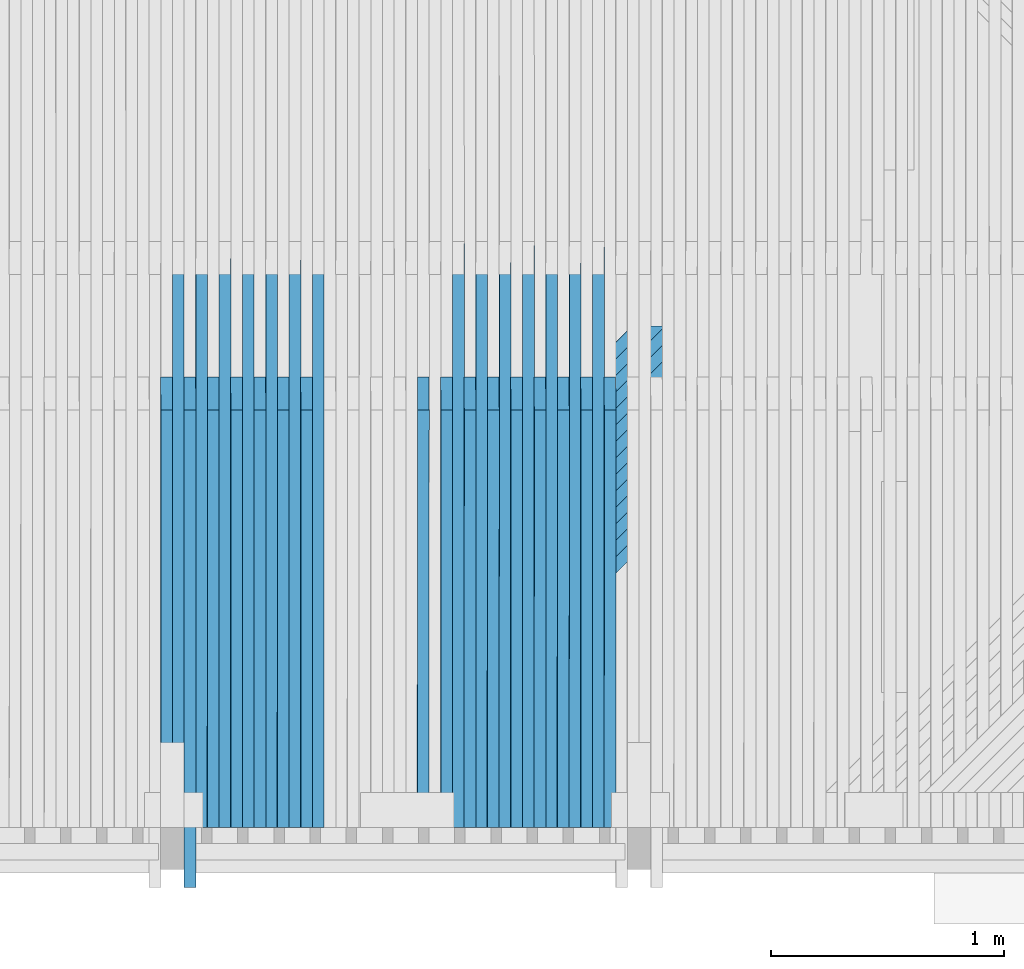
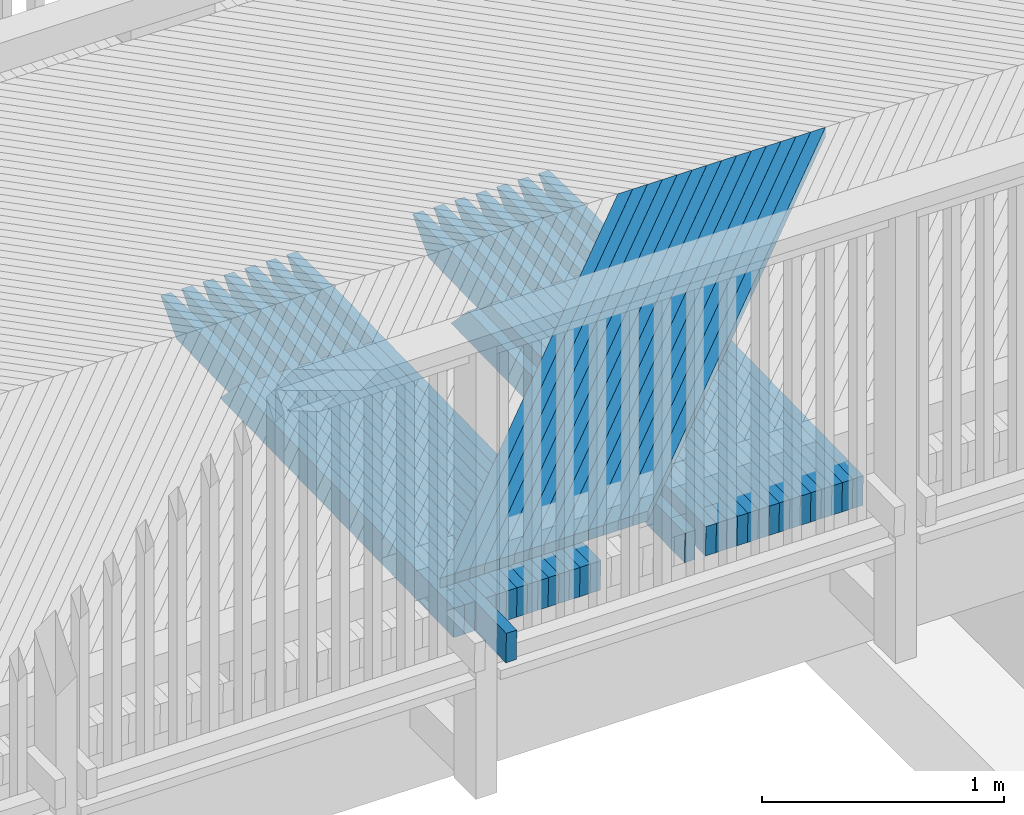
# One storey, part 38 of 52: 44 beams.
"""IFC2X3 building model written with IfcOpenShell, lengths in millimetres."""

from ifc_helpers import new_model, si_unit, frame, origin_with_axes, place, context, subcontext, project, spatial, faceted_brep, material, type_object, element, save


model = new_model("IFC2X3")

# Units and contexts
model_context = context("Model", 3, precision=1e-05, world=origin_with_axes())
body_context = subcontext(model_context, "Body", "Model", "MODEL_VIEW")
ifc_project = project(units=[si_unit("LENGTHUNIT", "METRE", prefix="MILLI"), si_unit("AREAUNIT", "SQUARE_METRE"), si_unit("VOLUMEUNIT", "CUBIC_METRE"), si_unit("MASSUNIT", "GRAM", prefix="KILO"), si_unit("TIMEUNIT", "SECOND"), si_unit("PLANEANGLEUNIT", "RADIAN"), si_unit("SOLIDANGLEUNIT", "STERADIAN"), si_unit("THERMODYNAMICTEMPERATUREUNIT", "DEGREE_CELSIUS"), si_unit("LUMINOUSINTENSITYUNIT", "LUMEN")], contexts=[model_context])

# Site, building, storey
site_placement = place(None, origin_with_axes())
site = spatial("IfcSite", under=ifc_project, at=site_placement, Name="Undefined", CompositionType="ELEMENT")
building_placement = place(site_placement, origin_with_axes())
building = spatial("IfcBuilding", under=site, at=building_placement, Name="Undefined", CompositionType="ELEMENT")
storey_placement = place(building_placement, origin_with_axes())
storey = spatial("IfcBuildingStorey", under=building, at=storey_placement, Name="Undefined", CompositionType="ELEMENT", Elevation=0.0)

# Beams
ifc_material = material(Name="TIMBER/Timber_Undefined")
beam_type_1 = type_object("IfcBeamType", Name="50*50", PredefinedType="NOTDEFINED")
for number, where, z_axis, x_axis, name in (
    (1, (14925.1802800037, 2364.50010032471, 3196.29569063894), (0.706919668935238, -0.706981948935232, -0.0210025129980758), (-0.70722726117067, -0.706948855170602, -0.00727442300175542), "BEAM"),
    (2, (14854.4606769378, 2364.50010032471, 3197.1049734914), (0.706922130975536, -0.706981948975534, -0.0209194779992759), (-0.707226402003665, -0.706948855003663, -0.00735749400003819), "BEAM"),
    (3, (14783.740979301, 2364.50010032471, 3197.90594956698), (0.706924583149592, -0.706981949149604, -0.020836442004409), (-0.70722553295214, -0.706948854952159, -0.00744056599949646), "BEAM"),
    (4, (14713.0211880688, 2364.50010032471, 3198.69861885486), (0.706927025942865, -0.706981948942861, -0.0207534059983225), (-0.707224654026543, -0.706948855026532, -0.00752363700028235), "BEAM"),
    (5, (14642.301304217, 2364.50010032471, 3199.4829813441), (0.706929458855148, -0.706981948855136, -0.0206703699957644), (-0.70722376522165, -0.706948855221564, -0.00760670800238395), "BEAM"),
    (6, (14571.5813287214, 2364.50010032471, 3200.25903702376), (0.706931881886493, -0.706981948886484, -0.0205873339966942), (-0.707222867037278, -0.706948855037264, -0.00768977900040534), "BEAM"),
    (7, (14500.8612625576, 2364.50010032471, 3201.02678588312), (0.706934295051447, -0.706981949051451, -0.0205042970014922), (-0.707221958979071, -0.70694885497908, -0.00777284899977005), "BEAM"),
    (8, (14430.1411067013, 2364.50010032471, 3201.78622791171), (0.706936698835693, -0.706981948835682, -0.0204212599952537), (-0.707221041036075, -0.706948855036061, -0.00785592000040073), "BEAM"),
    (9, (14359.4208621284, 2364.50010032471, 3202.53736309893), (0.706939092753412, -0.706981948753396, -0.0203382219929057), (-0.707220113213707, -0.706948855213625, -0.00793899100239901), "BEAM"),
    (10, (14288.7005298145, 2364.50010032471, 3203.28019143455), (0.706941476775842, -0.706981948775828, -0.0202551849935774), (-0.707219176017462, -0.706948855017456, -0.00802206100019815), "BEAM"),
    (11, (14217.9801107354, 2364.50010032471, 3204.01471290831), (0.706943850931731, -0.706981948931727, -0.0201721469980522), (-0.707218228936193, -0.706948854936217, -0.00810513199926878), "BEAM"),
    (12, (14147.2596058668, 2364.50010032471, 3204.74092750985), (0.706946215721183, -0.706981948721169, -0.0200891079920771), (-0.707217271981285, -0.706948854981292, -0.00818820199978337), "BEAM"),
    (13, (14076.5390161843, 2364.50010032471, 3205.45883522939), (0.706948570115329, -0.706981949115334, -0.0200060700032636), (-0.707216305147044, -0.706948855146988, -0.00827127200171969), "BEAM"),
    (14, (14005.8183426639, 2364.50010032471, 3206.16843605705), (0.706950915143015, -0.706981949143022, -0.0199230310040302), (-0.707215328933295, -0.70694885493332, -0.00835434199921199), "BEAM"),
):
    element("IfcBeam", number, at=place(storey_placement, frame(where, z_axis=z_axis, x_axis=x_axis)), inside=storey, type_object=beam_type_1, material=ifc_material, Name=name, ObjectType="50*50", context=body_context, shape_type="Brep", body=[
        faceted_brep([(24.894245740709, 25.0, -25.0), (-25.0086637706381, 24.9999999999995, 24.9999999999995), (2804.3406783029, 25.0000000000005, 25.0000000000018), (2854.34301907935, 25.0, -24.9999999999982), (-26.4222658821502, -25.0, 24.9999999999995), (2802.92643296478, -25.0, 25.0000000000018), (23.4806436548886, -25.0, -25.0), (2852.92877373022, -25.0, -24.9999999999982)], [[[0, 1, 2, 3]], [[1, 4, 5, 2]], [[4, 6, 7, 5]], [[6, 0, 3, 7]], [[5, 7, 3, 2]], [[6, 4, 1, 0]]]),
    ])
beam_type_2 = type_object("IfcBeamType", Name="150*50", PredefinedType="NOTDEFINED")
for number, where, z_axis, x_axis, name in (
    (15, (13875.0597412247, 216.50460761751, 3064.47376901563), (0.00967943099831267, -0.0199960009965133, 0.999753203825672), (0.000193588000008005, 0.999800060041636, 0.0199950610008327), "BEAM"),
    (16, (13775.0443914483, 216.50460761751, 3065.44163255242), (0.00951331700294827, -0.0199960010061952, 0.999754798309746), (0.000190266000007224, 0.999800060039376, 0.0199950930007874), "BEAM"),
):
    element("IfcBeam", number, at=place(storey_placement, frame(where, z_axis=z_axis, x_axis=x_axis)), inside=storey, type_object=beam_type_2, material=ifc_material, Name=name, ObjectType="150*50", context=body_context, shape_type="Brep", body=[
        faceted_brep([(-1.67788130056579e-07, -24.9999999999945, -74.9999999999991), (1.67786311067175e-07, -24.9999999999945, 75.0000000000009), (1.67786311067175e-07, 25.0000000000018, 75.0), (-1.67787220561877e-07, 25.0000000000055, -75.0), (1789.96936433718, -25.0000000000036, 74.9999999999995), (1789.96936408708, 24.9999999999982, 75.0000000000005), (1928.42646328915, 24.9999999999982, -74.9999999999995), (1928.42646353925, -25.0, -75.0)], [[[0, 1, 2, 3]], [[2, 1, 4, 5]], [[3, 2, 5, 6]], [[0, 3, 6, 7]], [[1, 0, 7, 4]], [[6, 5, 4, 7]]]),
    ])
beam_1_placement = place(storey_placement, frame((13825.062080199, 216.504607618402, 3064.95737203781), z_axis=(0.00967943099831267, -0.0199960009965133, 0.999753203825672), x_axis=(0.000193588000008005, 0.999800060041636, 0.0199950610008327)))
element("IfcBeam", 17, at=beam_1_placement, inside=storey, type_object=beam_type_2, material=ifc_material, Name="BEAM", ObjectType="150*50", context=body_context, shape_type="Brep", body=[
    faceted_brep([(-1.67788130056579e-07, -24.9999999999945, -74.9999999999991), (1.67786311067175e-07, -24.9999999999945, 75.0000000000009), (1.67786311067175e-07, 25.0000000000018, 75.0), (-1.67787220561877e-07, 25.0000000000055, -75.0), (2375.00494422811, 25.0000000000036, -74.9999999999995), (2375.0049444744, -24.9999999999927, -74.9999999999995), (2510.5924871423, -24.9999999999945, 60.5875430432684), (2150.42514405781, -24.9999999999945, 75.0000000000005), (2150.42515052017, 25.0000000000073, 75.0), (2510.59248715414, 25.0000000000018, 60.5875433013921)], [[[0, 1, 2, 3]], [[0, 3, 4, 5]], [[1, 0, 5, 6, 7]], [[2, 1, 7, 8]], [[4, 3, 2, 8, 9]], [[5, 4, 9, 6]], [[6, 9, 8, 7]]]),
])
beam_2_placement = place(storey_placement, frame((13675.0288822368, 216.50460761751, 3066.39287799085), z_axis=(0.00934720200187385, -0.0199960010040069, 0.999756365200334), x_axis=(0.000186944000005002, 0.999800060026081, 0.0199951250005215)))
element("IfcBeam", 18, at=beam_2_placement, inside=storey, type_object=beam_type_2, material=ifc_material, Name="BEAM", ObjectType="150*50", context=body_context, shape_type="Brep", body=[
    faceted_brep([(-1.67788130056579e-07, -24.9999999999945, -74.9999999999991), (1.67786311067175e-07, -24.9999999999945, 75.0000000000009), (1.67786311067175e-07, 25.0000000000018, 75.0), (-1.67787220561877e-07, 25.0000000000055, -75.0), (1789.96936433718, -25.0000000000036, 74.9999999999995), (1789.96936408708, 24.9999999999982, 75.0000000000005), (1928.42646328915, 24.9999999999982, -74.9999999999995), (1928.42646353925, -25.0, -75.0)], [[[0, 1, 2, 3]], [[2, 1, 4, 5]], [[3, 2, 5, 6]], [[0, 3, 6, 7]], [[1, 0, 7, 4]], [[6, 5, 4, 7]]]),
])
beam_3_placement = place(storey_placement, frame((13725.0466507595, 216.504607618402, 3065.91692818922), z_axis=(0.00951331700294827, -0.0199960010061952, 0.999754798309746), x_axis=(0.000190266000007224, 0.999800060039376, 0.0199950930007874)))
element("IfcBeam", 19, at=beam_3_placement, inside=storey, type_object=beam_type_2, material=ifc_material, Name="BEAM", ObjectType="150*50", context=body_context, shape_type="Brep", body=[
    faceted_brep([(-1.67788130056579e-07, -24.9999999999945, -74.9999999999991), (1.67786311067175e-07, -24.9999999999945, 75.0000000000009), (1.67786311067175e-07, 25.0000000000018, 75.0), (-1.67787220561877e-07, 25.0000000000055, -75.0), (2375.00494422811, 25.0000000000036, -74.9999999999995), (2375.0049444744, -24.9999999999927, -74.9999999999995), (2510.5924871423, -24.9999999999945, 60.5875430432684), (2150.42514405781, -24.9999999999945, 75.0000000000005), (2150.42515052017, 25.0000000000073, 75.0), (2510.59248715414, 25.0000000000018, 60.5875433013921)], [[[0, 1, 2, 3]], [[0, 3, 4, 5]], [[1, 0, 5, 6, 7]], [[2, 1, 7, 8]], [[4, 3, 2, 8, 9]], [[5, 4, 9, 6]], [[6, 9, 8, 7]]]),
])
beam_4_placement = place(storey_placement, frame((13575.0132163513, 216.50460761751, 3067.32750530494), z_axis=(0.00918108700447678, -0.0199960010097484, 0.999757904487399), x_axis=(0.000183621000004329, 0.999800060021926, 0.0199951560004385)))
element("IfcBeam", 20, at=beam_4_placement, inside=storey, type_object=beam_type_2, material=ifc_material, Name="BEAM", ObjectType="150*50", context=body_context, shape_type="Brep", body=[
    faceted_brep([(-1.67788130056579e-07, -24.9999999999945, -74.9999999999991), (1.67786311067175e-07, -24.9999999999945, 75.0000000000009), (1.67786311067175e-07, 25.0000000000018, 75.0), (-1.67787220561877e-07, 25.0000000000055, -75.0), (1789.96936433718, -25.0000000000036, 74.9999999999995), (1789.96936408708, 24.9999999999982, 75.0000000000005), (1928.42646328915, 24.9999999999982, -74.9999999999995), (1928.42646353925, -25.0, -75.0)], [[[0, 1, 2, 3]], [[2, 1, 4, 5]], [[3, 2, 5, 6]], [[0, 3, 6, 7]], [[1, 0, 7, 4]], [[6, 5, 4, 7]]]),
])
beam_5_placement = place(storey_placement, frame((13625.0310632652, 216.504607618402, 3066.85986622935), z_axis=(0.00934720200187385, -0.0199960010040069, 0.999756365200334), x_axis=(0.000186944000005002, 0.999800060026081, 0.0199951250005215)))
element("IfcBeam", 21, at=beam_5_placement, inside=storey, type_object=beam_type_2, material=ifc_material, Name="BEAM", ObjectType="150*50", context=body_context, shape_type="Brep", body=[
    faceted_brep([(-1.67788130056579e-07, -24.9999999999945, -74.9999999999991), (1.67786311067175e-07, -24.9999999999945, 75.0000000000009), (1.67786311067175e-07, 25.0000000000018, 75.0), (-1.67787220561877e-07, 25.0000000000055, -75.0), (2375.00494422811, 25.0000000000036, -74.9999999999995), (2375.0049444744, -24.9999999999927, -74.9999999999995), (2510.5924871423, -24.9999999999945, 60.5875430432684), (2150.42514405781, -24.9999999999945, 75.0000000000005), (2150.42515052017, 25.0000000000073, 75.0), (2510.59248715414, 25.0000000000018, 60.5875433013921)], [[[0, 1, 2, 3]], [[0, 3, 4, 5]], [[1, 0, 5, 6, 7]], [[2, 1, 7, 8]], [[4, 3, 2, 8, 9]], [[5, 4, 9, 6]], [[6, 9, 8, 7]]]),
])
beam_6_placement = place(storey_placement, frame((13474.9973965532, 216.50460761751, 3068.24551446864), z_axis=(0.00901497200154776, -0.0199960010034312, 0.999759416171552), x_axis=(0.000180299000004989, 0.999800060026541, 0.0199951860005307)))
element("IfcBeam", 22, at=beam_6_placement, inside=storey, type_object=beam_type_2, material=ifc_material, Name="BEAM", ObjectType="150*50", context=body_context, shape_type="Brep", body=[
    faceted_brep([(-1.67788130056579e-07, -24.9999999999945, -74.9999999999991), (1.67786311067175e-07, -24.9999999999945, 75.0000000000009), (1.67786311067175e-07, 25.0000000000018, 75.0), (-1.67787220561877e-07, 25.0000000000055, -75.0), (1789.96936433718, -25.0000000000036, 74.9999999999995), (1789.96936408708, 24.9999999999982, 75.0000000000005), (1928.42646328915, 24.9999999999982, -74.9999999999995), (1928.42646353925, -25.0, -75.0)], [[[0, 1, 2, 3]], [[2, 1, 4, 5]], [[3, 2, 5, 6]], [[0, 3, 6, 7]], [[1, 0, 7, 4]], [[6, 5, 4, 7]]]),
])
beam_7_placement = place(storey_placement, frame((13525.0153204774, 216.504607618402, 3067.78618613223), z_axis=(0.00918108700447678, -0.0199960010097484, 0.999757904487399), x_axis=(0.000183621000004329, 0.999800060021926, 0.0199951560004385)))
element("IfcBeam", 23, at=beam_7_placement, inside=storey, type_object=beam_type_2, material=ifc_material, Name="BEAM", ObjectType="150*50", context=body_context, shape_type="Brep", body=[
    faceted_brep([(-1.67788130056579e-07, -24.9999999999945, -74.9999999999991), (1.67786311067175e-07, -24.9999999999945, 75.0000000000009), (1.67786311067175e-07, 25.0000000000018, 75.0), (-1.67787220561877e-07, 25.0000000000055, -75.0), (2375.00494422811, 25.0000000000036, -74.9999999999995), (2375.0049444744, -24.9999999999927, -74.9999999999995), (2510.5924871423, -24.9999999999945, 60.5875430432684), (2150.42514405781, -24.9999999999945, 75.0000000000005), (2150.42515052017, 25.0000000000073, 75.0), (2510.59248715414, 25.0000000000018, 60.5875433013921)], [[[0, 1, 2, 3]], [[0, 3, 4, 5]], [[1, 0, 5, 6, 7]], [[2, 1, 7, 8]], [[4, 3, 2, 8, 9]], [[5, 4, 9, 6]], [[6, 9, 8, 7]]]),
])
beam_8_placement = place(storey_placement, frame((13374.9814256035, 216.50460761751, 3069.1469054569), z_axis=(0.00884885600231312, -0.0199960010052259, 0.999760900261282), x_axis=(0.000176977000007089, 0.999800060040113, 0.0199952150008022)))
element("IfcBeam", 24, at=beam_8_placement, inside=storey, type_object=beam_type_2, material=ifc_material, Name="BEAM", ObjectType="150*50", context=body_context, shape_type="Brep", body=[
    faceted_brep([(-1.67788130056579e-07, -24.9999999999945, -74.9999999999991), (1.67786311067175e-07, -24.9999999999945, 75.0000000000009), (1.67786311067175e-07, 25.0000000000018, 75.0), (-1.67787220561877e-07, 25.0000000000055, -75.0), (1789.96936433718, -25.0000000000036, 74.9999999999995), (1789.96936408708, 24.9999999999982, 75.0000000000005), (1928.42646328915, 24.9999999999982, -74.9999999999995), (1928.42646353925, -25.0, -75.0)], [[[0, 1, 2, 3]], [[2, 1, 4, 5]], [[3, 2, 5, 6]], [[0, 3, 6, 7]], [[1, 0, 7, 4]], [[6, 5, 4, 7]]]),
])
beam_9_placement = place(storey_placement, frame((13424.9994251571, 216.504607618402, 3068.69588787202), z_axis=(0.00901497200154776, -0.0199960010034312, 0.999759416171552), x_axis=(0.000180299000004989, 0.999800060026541, 0.0199951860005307)))
element("IfcBeam", 25, at=beam_9_placement, inside=storey, type_object=beam_type_2, material=ifc_material, Name="BEAM", ObjectType="150*50", context=body_context, shape_type="Brep", body=[
    faceted_brep([(-1.67788130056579e-07, -24.9999999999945, -74.9999999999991), (1.67786311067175e-07, -24.9999999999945, 75.0000000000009), (1.67786311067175e-07, 25.0000000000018, 75.0), (-1.67787220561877e-07, 25.0000000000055, -75.0), (2375.00494422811, 25.0000000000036, -74.9999999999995), (2375.0049444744, -24.9999999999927, -74.9999999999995), (2510.5924871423, -24.9999999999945, 60.5875430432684), (2150.42514405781, -24.9999999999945, 75.0000000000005), (2150.42515052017, 25.0000000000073, 75.0), (2510.59248715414, 25.0000000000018, 60.5875433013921)], [[[0, 1, 2, 3]], [[0, 3, 4, 5]], [[1, 0, 5, 6, 7]], [[2, 1, 7, 8]], [[4, 3, 2, 8, 9]], [[5, 4, 9, 6]], [[6, 9, 8, 7]]]),
])
beam_10_placement = place(storey_placement, frame((13274.9653062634, 216.50460761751, 3070.03167824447), z_axis=(0.00868274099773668, -0.0199960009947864, 0.999762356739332), x_axis=(0.000173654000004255, 0.999800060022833, 0.0199952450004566)))
element("IfcBeam", 26, at=beam_10_placement, inside=storey, type_object=beam_type_2, material=ifc_material, Name="BEAM", ObjectType="150*50", context=body_context, shape_type="Brep", body=[
    faceted_brep([(-1.67788130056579e-07, -24.9999999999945, -74.9999999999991), (1.67786311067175e-07, -24.9999999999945, 75.0000000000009), (1.67786311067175e-07, 25.0000000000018, 75.0), (-1.67787220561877e-07, 25.0000000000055, -75.0), (1789.96936433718, -25.0000000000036, 74.9999999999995), (1789.96936408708, 24.9999999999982, 75.0000000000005), (1928.42646328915, 24.9999999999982, -74.9999999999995), (1928.42646353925, -25.0, -75.0)], [[[0, 1, 2, 3]], [[2, 1, 4, 5]], [[3, 2, 5, 6]], [[0, 3, 6, 7]], [[1, 0, 7, 4]], [[6, 5, 4, 7]]]),
])
beam_11_placement = place(storey_placement, frame((13324.9833800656, 216.504607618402, 3069.5889714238), z_axis=(0.00884885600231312, -0.0199960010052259, 0.999760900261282), x_axis=(0.000176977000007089, 0.999800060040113, 0.0199952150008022)))
element("IfcBeam", 27, at=beam_11_placement, inside=storey, type_object=beam_type_2, material=ifc_material, Name="BEAM", ObjectType="150*50", context=body_context, shape_type="Brep", body=[
    faceted_brep([(-1.67788130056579e-07, -24.9999999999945, -74.9999999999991), (1.67786311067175e-07, -24.9999999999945, 75.0000000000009), (1.67786311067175e-07, 25.0000000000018, 75.0), (-1.67787220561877e-07, 25.0000000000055, -75.0), (2375.00494422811, 25.0000000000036, -74.9999999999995), (2375.0049444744, -24.9999999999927, -74.9999999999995), (2510.5924871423, -24.9999999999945, 60.5875430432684), (2150.42514405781, -24.9999999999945, 75.0000000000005), (2150.42515052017, 25.0000000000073, 75.0), (2510.59248715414, 25.0000000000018, 60.5875433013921)], [[[0, 1, 2, 3]], [[0, 3, 4, 5]], [[1, 0, 5, 6, 7]], [[2, 1, 7, 8]], [[4, 3, 2, 8, 9]], [[5, 4, 9, 6]], [[6, 9, 8, 7]]]),
])
beam_12_placement = place(storey_placement, frame((13174.9490412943, 216.50460761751, 3070.89983280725), z_axis=(0.00851662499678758, -0.0199960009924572, 0.999763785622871), x_axis=(0.000170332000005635, 0.999800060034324, 0.0199952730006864)))
element("IfcBeam", 28, at=beam_12_placement, inside=storey, type_object=beam_type_2, material=ifc_material, Name="BEAM", ObjectType="150*50", context=body_context, shape_type="Brep", body=[
    faceted_brep([(-1.67788130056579e-07, -24.9999999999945, -74.9999999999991), (1.67786311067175e-07, -24.9999999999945, 75.0000000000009), (1.67786311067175e-07, 25.0000000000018, 75.0), (-1.67787220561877e-07, 25.0000000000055, -75.0), (1789.96936433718, -25.0000000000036, 74.9999999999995), (1789.96936408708, 24.9999999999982, 75.0000000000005), (1928.42646328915, 24.9999999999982, -74.9999999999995), (1928.42646353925, -25.0, -75.0)], [[[0, 1, 2, 3]], [[2, 1, 4, 5]], [[3, 2, 5, 6]], [[0, 3, 6, 7]], [[1, 0, 7, 4]], [[6, 5, 4, 7]]]),
])
beam_13_placement = place(storey_placement, frame((13224.9671879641, 216.504607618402, 3070.4654367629), z_axis=(0.00868274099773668, -0.0199960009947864, 0.999762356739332), x_axis=(0.000173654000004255, 0.999800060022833, 0.0199952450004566)))
element("IfcBeam", 29, at=beam_13_placement, inside=storey, type_object=beam_type_2, material=ifc_material, Name="BEAM", ObjectType="150*50", context=body_context, shape_type="Brep", body=[
    faceted_brep([(-1.67788130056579e-07, -24.9999999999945, -74.9999999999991), (1.67786311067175e-07, -24.9999999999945, 75.0000000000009), (1.67786311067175e-07, 25.0000000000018, 75.0), (-1.67787220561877e-07, 25.0000000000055, -75.0), (2375.00494422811, 25.0000000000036, -74.9999999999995), (2375.0049444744, -24.9999999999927, -74.9999999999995), (2510.5924871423, -24.9999999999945, 60.5875430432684), (2150.42514405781, -24.9999999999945, 75.0000000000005), (2150.42515052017, 25.0000000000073, 75.0), (2510.59248715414, 25.0000000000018, 60.5875433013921)], [[[0, 1, 2, 3]], [[0, 3, 4, 5]], [[1, 0, 5, 6, 7]], [[2, 1, 7, 8]], [[4, 3, 2, 8, 9]], [[5, 4, 9, 6]], [[6, 9, 8, 7]]]),
])
for number, where, z_axis, x_axis, name in (
    (30, (13074.9326334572, 216.50460761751, 3071.75136912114), (0.00835050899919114, -0.0199960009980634, 0.999765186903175), (0.000167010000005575, 0.999800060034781, 0.0199953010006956), "BEAM"),
    (31, (12574.8485478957, 216.50460761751, 3075.75977614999), (0.00751992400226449, -0.019996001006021, 0.99977177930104), (0.000150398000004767, 0.999800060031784, 0.0199954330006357), "BEAM"),
):
    element("IfcBeam", number, at=place(storey_placement, frame(where, z_axis=z_axis, x_axis=x_axis)), inside=storey, type_object=beam_type_2, material=ifc_material, Name=name, ObjectType="150*50", context=body_context, shape_type="Brep", body=[
        faceted_brep([(-1.67788130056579e-07, -24.9999999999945, -74.9999999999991), (1.67786311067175e-07, -24.9999999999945, 75.0000000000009), (1.67786311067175e-07, 25.0000000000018, 75.0), (-1.67787220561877e-07, 25.0000000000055, -75.0), (1789.96936433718, -25.0000000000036, 74.9999999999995), (1789.96936408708, 24.9999999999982, 75.0000000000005), (1928.42646328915, 24.9999999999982, -74.9999999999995), (1928.42646353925, -25.0, -75.0)], [[[0, 1, 2, 3]], [[2, 1, 4, 5]], [[3, 2, 5, 6]], [[0, 3, 6, 7]], [[1, 0, 7, 4]], [[6, 5, 4, 7]]]),
    ])
beam_14_placement = place(storey_placement, frame((12624.8671027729, 216.504607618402, 3075.37524500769), z_axis=(0.00768604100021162, -0.0199960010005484, 0.999770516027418), x_axis=(0.000153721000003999, 0.999800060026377, 0.0199954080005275)))
element("IfcBeam", 32, at=beam_14_placement, inside=storey, type_object=beam_type_2, material=ifc_material, Name="BEAM", ObjectType="150*50", context=body_context, shape_type="Brep", body=[
    faceted_brep([(-1.67788130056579e-07, -24.9999999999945, -74.9999999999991), (1.67786311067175e-07, -24.9999999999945, 75.0000000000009), (1.67786311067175e-07, 25.0000000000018, 75.0), (-1.67787220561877e-07, 25.0000000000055, -75.0), (2375.00494422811, 25.0000000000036, -74.9999999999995), (2375.0049444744, -24.9999999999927, -74.9999999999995), (2510.5924871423, -24.9999999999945, 60.5875430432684), (2150.42514405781, -24.9999999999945, 75.0000000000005), (2150.42515052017, 25.0000000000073, 75.0), (2510.59248715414, 25.0000000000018, 60.5875433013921)], [[[0, 1, 2, 3]], [[0, 3, 4, 5]], [[1, 0, 5, 6, 7]], [[2, 1, 7, 8]], [[4, 3, 2, 8, 9]], [[5, 4, 9, 6]], [[6, 9, 8, 7]]]),
])
beam_15_placement = place(storey_placement, frame((12474.8313408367, 216.50460761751, 3076.51160249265), z_axis=(0.00735380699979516, -0.0199960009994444, 0.999773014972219), x_axis=(0.000147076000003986, 0.999800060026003, 0.01999545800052)))
element("IfcBeam", 33, at=beam_15_placement, inside=storey, type_object=beam_type_2, material=ifc_material, Name="BEAM", ObjectType="150*50", context=body_context, shape_type="Brep", body=[
    faceted_brep([(-1.67788130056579e-07, -24.9999999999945, -74.9999999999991), (1.67786311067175e-07, -24.9999999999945, 75.0000000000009), (1.67786311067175e-07, 25.0000000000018, 75.0), (-1.67787220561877e-07, 25.0000000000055, -75.0), (1789.96936433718, -25.0000000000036, 74.9999999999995), (1789.96936408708, 24.9999999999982, 75.0000000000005), (1928.42646328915, 24.9999999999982, -74.9999999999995), (1928.42646353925, -25.0, -75.0)], [[[0, 1, 2, 3]], [[2, 1, 4, 5]], [[3, 2, 5, 6]], [[0, 3, 6, 7]], [[1, 0, 7, 4]], [[6, 5, 4, 7]]]),
])
beam_16_placement = place(storey_placement, frame((12524.8499589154, 216.504607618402, 3076.13538220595), z_axis=(0.00751992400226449, -0.019996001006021, 0.99977177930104), x_axis=(0.000150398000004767, 0.999800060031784, 0.0199954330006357)))
element("IfcBeam", 34, at=beam_16_placement, inside=storey, type_object=beam_type_2, material=ifc_material, Name="BEAM", ObjectType="150*50", context=body_context, shape_type="Brep", body=[
    faceted_brep([(-1.67788130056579e-07, -24.9999999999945, -74.9999999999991), (1.67786311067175e-07, -24.9999999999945, 75.0000000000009), (1.67786311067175e-07, 25.0000000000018, 75.0), (-1.67787220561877e-07, 25.0000000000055, -75.0), (2375.00494422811, 25.0000000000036, -74.9999999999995), (2375.0049444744, -24.9999999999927, -74.9999999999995), (2510.5924871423, -24.9999999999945, 60.5875430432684), (2150.42514405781, -24.9999999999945, 75.0000000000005), (2150.42515052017, 25.0000000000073, 75.0), (2510.59248715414, 25.0000000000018, 60.5875433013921)], [[[0, 1, 2, 3]], [[0, 3, 4, 5]], [[1, 0, 5, 6, 7]], [[2, 1, 7, 8]], [[4, 3, 2, 8, 9]], [[5, 4, 9, 6]], [[6, 9, 8, 7]]]),
])
beam_17_placement = place(storey_placement, frame((12374.8140102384, 216.50460761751, 3077.24681043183), z_axis=(0.00718768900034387, -0.0199960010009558, 0.999774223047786), x_axis=(0.000143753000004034, 0.999800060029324, 0.0199954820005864)))
element("IfcBeam", 35, at=beam_17_placement, inside=storey, type_object=beam_type_2, material=ifc_material, Name="BEAM", ObjectType="150*50", context=body_context, shape_type="Brep", body=[
    faceted_brep([(-1.67788130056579e-07, -24.9999999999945, -74.9999999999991), (1.67786311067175e-07, -24.9999999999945, 75.0000000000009), (1.67786311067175e-07, 25.0000000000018, 75.0), (-1.67787220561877e-07, 25.0000000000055, -75.0), (1789.96936433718, -25.0000000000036, 74.9999999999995), (1789.96936408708, 24.9999999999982, 75.0000000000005), (1928.42646328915, 24.9999999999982, -74.9999999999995), (1928.42646353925, -25.0, -75.0)], [[[0, 1, 2, 3]], [[2, 1, 4, 5]], [[3, 2, 5, 6]], [[0, 3, 6, 7]], [[1, 0, 7, 4]], [[6, 5, 4, 7]]]),
])
beam_18_placement = place(storey_placement, frame((12424.8326901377, 216.504607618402, 3076.87890101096), z_axis=(0.00735380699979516, -0.0199960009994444, 0.999773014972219), x_axis=(0.000147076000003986, 0.999800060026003, 0.01999545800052)))
element("IfcBeam", 36, at=beam_18_placement, inside=storey, type_object=beam_type_2, material=ifc_material, Name="BEAM", ObjectType="150*50", context=body_context, shape_type="Brep", body=[
    faceted_brep([(-1.67788130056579e-07, -24.9999999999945, -74.9999999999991), (1.67786311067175e-07, -24.9999999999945, 75.0000000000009), (1.67786311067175e-07, 25.0000000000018, 75.0), (-1.67787220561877e-07, 25.0000000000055, -75.0), (2375.00494422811, 25.0000000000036, -74.9999999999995), (2375.0049444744, -24.9999999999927, -74.9999999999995), (2510.5924871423, -24.9999999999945, 60.5875430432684), (2150.42514405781, -24.9999999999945, 75.0000000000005), (2150.42515052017, 25.0000000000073, 75.0), (2510.59248715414, 25.0000000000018, 60.5875433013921)], [[[0, 1, 2, 3]], [[0, 3, 4, 5]], [[1, 0, 5, 6, 7]], [[2, 1, 7, 8]], [[4, 3, 2, 8, 9]], [[5, 4, 9, 6]], [[6, 9, 8, 7]]]),
])
beam_19_placement = place(storey_placement, frame((12274.796558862, 216.50460761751, 3077.96539994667), z_axis=(0.00702157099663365, -0.0199960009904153, 0.999775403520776), x_axis=(0.000140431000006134, 0.999800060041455, 0.019995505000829)))
element("IfcBeam", 37, at=beam_19_placement, inside=storey, type_object=beam_type_2, material=ifc_material, Name="BEAM", ObjectType="150*50", context=body_context, shape_type="Brep", body=[
    faceted_brep([(-1.67788130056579e-07, -24.9999999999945, -74.9999999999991), (1.67786311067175e-07, -24.9999999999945, 75.0000000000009), (1.67786311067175e-07, 25.0000000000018, 75.0), (-1.67787220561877e-07, 25.0000000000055, -75.0), (1789.96936433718, -25.0000000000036, 74.9999999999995), (1789.96936408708, 24.9999999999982, 75.0000000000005), (1928.42646328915, 24.9999999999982, -74.9999999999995), (1928.42646353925, -25.0, -75.0)], [[[0, 1, 2, 3]], [[2, 1, 4, 5]], [[3, 2, 5, 6]], [[0, 3, 6, 7]], [[1, 0, 7, 4]], [[6, 5, 4, 7]]]),
])
beam_20_placement = place(storey_placement, frame((12324.8152992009, 216.504607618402, 3077.60580140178), z_axis=(0.00718768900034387, -0.0199960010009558, 0.999774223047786), x_axis=(0.000143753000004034, 0.999800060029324, 0.0199954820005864)))
element("IfcBeam", 38, at=beam_20_placement, inside=storey, type_object=beam_type_2, material=ifc_material, Name="BEAM", ObjectType="150*50", context=body_context, shape_type="Brep", body=[
    faceted_brep([(-1.67788130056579e-07, -24.9999999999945, -74.9999999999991), (1.67786311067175e-07, -24.9999999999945, 75.0000000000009), (1.67786311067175e-07, 25.0000000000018, 75.0), (-1.67787220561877e-07, 25.0000000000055, -75.0), (2375.00494422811, 25.0000000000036, -74.9999999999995), (2375.0049444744, -24.9999999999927, -74.9999999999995), (2510.5924871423, -24.9999999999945, 60.5875430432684), (2150.42514405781, -24.9999999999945, 75.0000000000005), (2150.42515052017, 25.0000000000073, 75.0), (2510.59248715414, 25.0000000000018, 60.5875433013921)], [[[0, 1, 2, 3]], [[0, 3, 4, 5]], [[1, 0, 5, 6, 7]], [[2, 1, 7, 8]], [[4, 3, 2, 8, 9]], [[5, 4, 9, 6]], [[6, 9, 8, 7]]]),
])
beam_21_placement = place(storey_placement, frame((12174.7789894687, 216.50460761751, 3078.66737101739), z_axis=(0.00685545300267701, -0.019996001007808, 0.999776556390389), x_axis=(0.000137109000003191, 0.99980006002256, 0.0199955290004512)))
element("IfcBeam", 39, at=beam_21_placement, inside=storey, type_object=beam_type_2, material=ifc_material, Name="BEAM", ObjectType="150*50", context=body_context, shape_type="Brep", body=[
    faceted_brep([(-1.67788130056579e-07, -24.9999999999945, -74.9999999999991), (1.67786311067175e-07, -24.9999999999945, 75.0000000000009), (1.67786311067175e-07, 25.0000000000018, 75.0), (-1.67787220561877e-07, 25.0000000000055, -75.0), (1789.96936433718, -25.0000000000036, 74.9999999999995), (1789.96936408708, 24.9999999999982, 75.0000000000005), (1928.42646328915, 24.9999999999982, -74.9999999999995), (1928.42646353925, -25.0, -75.0)], [[[0, 1, 2, 3]], [[2, 1, 4, 5]], [[3, 2, 5, 6]], [[0, 3, 6, 7]], [[1, 0, 7, 4]], [[6, 5, 4, 7]]]),
])
for number, where, z_axis, x_axis, name in (
    (40, (12224.7977888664, 216.504607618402, 3078.3160833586), (0.00702157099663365, -0.0199960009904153, 0.999775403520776), (0.000140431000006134, 0.999800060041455, 0.019995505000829), "BEAM"),
    (41, (12124.7801618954, 216.504607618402, 3079.00974686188), (0.00685545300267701, -0.019996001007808, 0.999776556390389), (0.000137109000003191, 0.99980006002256, 0.0199955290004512), "BEAM"),
):
    element("IfcBeam", number, at=place(storey_placement, frame(where, z_axis=z_axis, x_axis=x_axis)), inside=storey, type_object=beam_type_2, material=ifc_material, Name=name, ObjectType="150*50", context=body_context, shape_type="Brep", body=[
        faceted_brep([(-1.67788130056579e-07, -24.9999999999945, -74.9999999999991), (1.67786311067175e-07, -24.9999999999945, 75.0000000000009), (1.67786311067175e-07, 25.0000000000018, 75.0), (-1.67787220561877e-07, 25.0000000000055, -75.0), (2375.00494422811, 25.0000000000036, -74.9999999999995), (2375.0049444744, -24.9999999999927, -74.9999999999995), (2510.5924871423, -24.9999999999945, 60.5875430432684), (2150.42514405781, -24.9999999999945, 75.0000000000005), (2150.42515052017, 25.0000000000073, 75.0), (2510.59248715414, 25.0000000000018, 60.5875433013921)], [[[0, 1, 2, 3]], [[0, 3, 4, 5]], [[1, 0, 5, 6, 7]], [[2, 1, 7, 8]], [[4, 3, 2, 8, 9]], [[5, 4, 9, 6]], [[6, 9, 8, 7]]]),
    ])
beam_22_placement = place(storey_placement, frame((11974.7435076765, 216.50460761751, 3080.02145775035), z_axis=(0.00652321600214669, -0.0199960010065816, 0.999778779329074), x_axis=(0.000130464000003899, 0.999800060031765, 0.0199955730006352)))
element("IfcBeam", 42, at=beam_22_placement, inside=storey, type_object=beam_type_2, material=ifc_material, Name="BEAM", ObjectType="150*50", context=body_context, shape_type="Brep", body=[
    faceted_brep([(-1.67788130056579e-07, -24.9999999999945, -74.9999999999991), (1.67786311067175e-07, -24.9999999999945, 75.0000000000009), (1.67786311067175e-07, 25.0000000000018, 75.0), (-1.67787220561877e-07, 25.0000000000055, -75.0), (1789.96936433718, -25.0000000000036, 74.9999999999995), (1789.96936408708, 24.9999999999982, 75.0000000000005), (1928.42646328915, 24.9999999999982, -74.9999999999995), (1928.42646353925, -25.0, -75.0)], [[[0, 1, 2, 3]], [[2, 1, 4, 5]], [[3, 2, 5, 6]], [[0, 3, 6, 7]], [[1, 0, 7, 4]], [[6, 5, 4, 7]]]),
])
beam_23_placement = place(storey_placement, frame((12024.762421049, 216.504607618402, 3079.68679189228), z_axis=(0.00668933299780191, -0.0199960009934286, 0.999777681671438), x_axis=(0.000133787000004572, 0.999800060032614, 0.0199955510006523)))
element("IfcBeam", 43, at=beam_23_placement, inside=storey, type_object=beam_type_2, material=ifc_material, Name="BEAM", ObjectType="150*50", context=body_context, shape_type="Brep", body=[
    faceted_brep([(-1.67788130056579e-07, -24.9999999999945, -74.9999999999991), (1.67786311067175e-07, -24.9999999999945, 75.0000000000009), (1.67786311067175e-07, 25.0000000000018, 75.0), (-1.67787220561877e-07, 25.0000000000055, -75.0), (2375.00494422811, 25.0000000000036, -74.9999999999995), (2375.0049444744, -24.9999999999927, -74.9999999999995), (2510.5924871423, -24.9999999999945, 60.5875430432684), (2150.42514405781, -24.9999999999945, 75.0000000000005), (2150.42515052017, 25.0000000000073, 75.0), (2510.59248715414, 25.0000000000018, 60.5875433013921)], [[[0, 1, 2, 3]], [[0, 3, 4, 5]], [[1, 0, 5, 6, 7]], [[2, 1, 7, 8]], [[4, 3, 2, 8, 9]], [[5, 4, 9, 6]], [[6, 9, 8, 7]]]),
])
beam_24_placement = place(storey_placement, frame((12074.8972682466, -41.4438078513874, 3074.19368174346), z_axis=(0.00668828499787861, -0.0199960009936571, 0.999777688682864), x_axis=(0.000133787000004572, 0.999800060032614, 0.0199955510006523)))
element("IfcBeam", 44, at=beam_24_placement, inside=storey, type_object=beam_type_2, material=ifc_material, Name="BEAM", ObjectType="150*50", context=body_context, shape_type="Brep", body=[
    faceted_brep([(-1.67788130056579e-07, -24.9999999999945, -74.9999999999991), (1.67786311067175e-07, -24.9999999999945, 75.0000000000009), (1.67786311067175e-07, 25.0000000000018, 75.0), (-1.67787220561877e-07, 25.0000000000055, -75.0), (2047.96935255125, -25.0, 75.0), (2047.9693678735, 25.0, 75.0), (2186.42646676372, 24.9999999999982, -75.0), (2186.42645144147, -25.0, -75.0)], [[[0, 1, 2, 3]], [[2, 1, 4, 5]], [[3, 2, 5, 6]], [[0, 3, 6, 7]], [[1, 0, 7, 4]], [[6, 5, 4, 7]]]),
])

save(model, "model.ifc")
